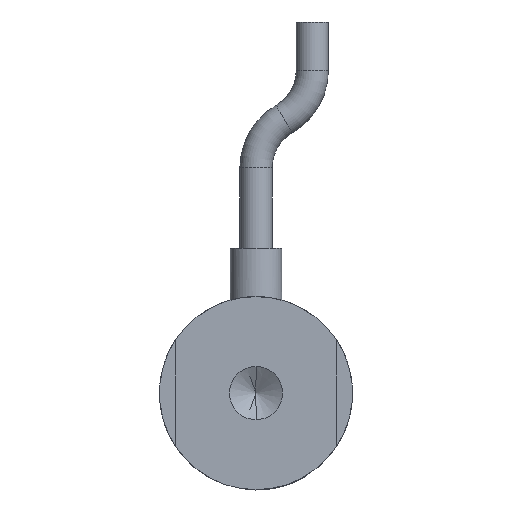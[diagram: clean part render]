
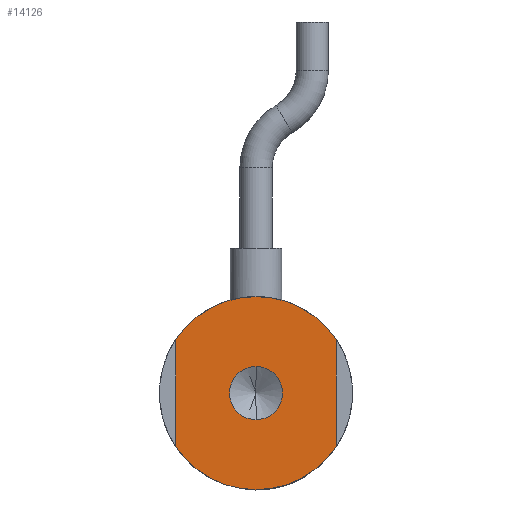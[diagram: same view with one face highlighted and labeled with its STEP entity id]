
A CAD part, front view. The second image highlights one B-rep face of the part: STEP entity #14126.
In plain terms, the highlighted planar face has unit normal (0, -1, 0).
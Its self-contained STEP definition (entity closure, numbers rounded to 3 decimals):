
#76 = CARTESIAN_POINT ( 'NONE',  ( 0., 0., -6. ) ) ;
#1276 = CIRCLE ( 'NONE', #23313, 6. ) ;
#1952 = DIRECTION ( 'NONE',  ( 0., 0., 1. ) ) ;
#2684 = DIRECTION ( 'NONE',  ( 0., -1., 0. ) ) ;
#2774 = VERTEX_POINT ( 'NONE', #29388 ) ;
#2792 = DIRECTION ( 'NONE',  ( 0., 1., 0. ) ) ;
#2826 = VECTOR ( 'NONE', #5853, 1000. ) ;
#3125 = AXIS2_PLACEMENT_3D ( 'NONE', #21870, #2684, #25080 ) ;
#3640 = ORIENTED_EDGE ( 'NONE', *, *, #22614, .F. ) ;
#5386 = VERTEX_POINT ( 'NONE', #76 ) ;
#5853 = DIRECTION ( 'NONE',  ( 0., 0., -1. ) ) ;
#5935 = DIRECTION ( 'NONE',  ( 0., 0., 1. ) ) ;
#6221 = EDGE_CURVE ( 'NONE', #11864, #17180, #19859, .T. ) ;
#7798 = CARTESIAN_POINT ( 'NONE',  ( 5., 0., -3.317 ) ) ;
#8244 = CARTESIAN_POINT ( 'NONE',  ( 0., 0., 0. ) ) ;
#8259 = CARTESIAN_POINT ( 'NONE',  ( 0., 0., 0. ) ) ;
#8446 = LINE ( 'NONE', #38360, #40118 ) ;
#11506 = DIRECTION ( 'NONE',  ( 0., 0., 1. ) ) ;
#11522 = DIRECTION ( 'NONE',  ( 0., 0., -1. ) ) ;
#11629 = FACE_BOUND ( 'NONE', #19776, .T. ) ;
#11720 = CARTESIAN_POINT ( 'NONE',  ( 0., 0., 1.65 ) ) ;
#11772 = VERTEX_POINT ( 'NONE', #32800 ) ;
#11864 = VERTEX_POINT ( 'NONE', #34269 ) ;
#12185 = ORIENTED_EDGE ( 'NONE', *, *, #6221, .F. ) ;
#12697 = CARTESIAN_POINT ( 'NONE',  ( 0., 0., 0. ) ) ;
#13468 = EDGE_CURVE ( 'NONE', #22080, #29192, #16139, .T. ) ;
#13867 = CARTESIAN_POINT ( 'NONE',  ( 0., 0., 6. ) ) ;
#14126 = ADVANCED_FACE ( 'NONE', ( #11629, #25050 ), #15818, .F. ) ;
#14800 = VERTEX_POINT ( 'NONE', #11720 ) ;
#15778 = ORIENTED_EDGE ( 'NONE', *, *, #33130, .F. ) ;
#15818 = PLANE ( 'NONE',  #17096 ) ;
#15910 = DIRECTION ( 'NONE',  ( 0., 0., 1. ) ) ;
#16139 = CIRCLE ( 'NONE', #27036, 6. ) ;
#16448 = CARTESIAN_POINT ( 'NONE',  ( 5., 0., 0. ) ) ;
#17096 = AXIS2_PLACEMENT_3D ( 'NONE', #19790, #35071, #1952 ) ;
#17180 = VERTEX_POINT ( 'NONE', #7798 ) ;
#17736 = CARTESIAN_POINT ( 'NONE',  ( 0., 0., 0. ) ) ;
#19377 = ORIENTED_EDGE ( 'NONE', *, *, #36521, .F. ) ;
#19776 = EDGE_LOOP ( 'NONE', ( #3640, #19377 ) ) ;
#19790 = CARTESIAN_POINT ( 'NONE',  ( 0., 0., 0. ) ) ;
#19859 = LINE ( 'NONE', #16448, #2826 ) ;
#20965 = DIRECTION ( 'NONE',  ( 0., 0., 1. ) ) ;
#21534 = AXIS2_PLACEMENT_3D ( 'NONE', #8244, #30708, #11506 ) ;
#21870 = CARTESIAN_POINT ( 'NONE',  ( 0., 0., 0. ) ) ;
#22080 = VERTEX_POINT ( 'NONE', #32505 ) ;
#22614 = EDGE_CURVE ( 'NONE', #2774, #14800, #26646, .T. ) ;
#22617 = AXIS2_PLACEMENT_3D ( 'NONE', #17736, #40219, #20965 ) ;
#23313 = AXIS2_PLACEMENT_3D ( 'NONE', #12697, #35156, #15910 ) ;
#24805 = EDGE_CURVE ( 'NONE', #29192, #11864, #1276, .T. ) ;
#25050 = FACE_OUTER_BOUND ( 'NONE', #30799, .T. ) ;
#25080 = DIRECTION ( 'NONE',  ( 0., 0., -1. ) ) ;
#25383 = EDGE_CURVE ( 'NONE', #5386, #11772, #32831, .T. ) ;
#25429 = AXIS2_PLACEMENT_3D ( 'NONE', #8259, #30726, #11522 ) ;
#25556 = CIRCLE ( 'NONE', #3125, 1.65 ) ;
#26604 = ORIENTED_EDGE ( 'NONE', *, *, #25383, .F. ) ;
#26646 = CIRCLE ( 'NONE', #25429, 1.65 ) ;
#27036 = AXIS2_PLACEMENT_3D ( 'NONE', #27711, #2792, #31678 ) ;
#27711 = CARTESIAN_POINT ( 'NONE',  ( 0., 0., 0. ) ) ;
#28327 = ORIENTED_EDGE ( 'NONE', *, *, #13468, .F. ) ;
#29192 = VERTEX_POINT ( 'NONE', #13867 ) ;
#29388 = CARTESIAN_POINT ( 'NONE',  ( 0., 0., -1.65 ) ) ;
#30708 = DIRECTION ( 'NONE',  ( 0., 1., 0. ) ) ;
#30726 = DIRECTION ( 'NONE',  ( 0., -1., 0. ) ) ;
#30799 = EDGE_LOOP ( 'NONE', ( #15778, #26604, #40359, #12185, #34336, #28327 ) ) ;
#31678 = DIRECTION ( 'NONE',  ( 0., 0., 1. ) ) ;
#32505 = CARTESIAN_POINT ( 'NONE',  ( -5., 0., 3.317 ) ) ;
#32800 = CARTESIAN_POINT ( 'NONE',  ( -5., 0., -3.317 ) ) ;
#32831 = CIRCLE ( 'NONE', #21534, 6. ) ;
#33130 = EDGE_CURVE ( 'NONE', #11772, #22080, #8446, .T. ) ;
#34269 = CARTESIAN_POINT ( 'NONE',  ( 5., 0., 3.317 ) ) ;
#34336 = ORIENTED_EDGE ( 'NONE', *, *, #24805, .F. ) ;
#35071 = DIRECTION ( 'NONE',  ( 0., 1., 0. ) ) ;
#35156 = DIRECTION ( 'NONE',  ( 0., 1., 0. ) ) ;
#36521 = EDGE_CURVE ( 'NONE', #14800, #2774, #25556, .T. ) ;
#38360 = CARTESIAN_POINT ( 'NONE',  ( -5., 0., 0. ) ) ;
#38881 = CIRCLE ( 'NONE', #22617, 6. ) ;
#40118 = VECTOR ( 'NONE', #5935, 1000. ) ;
#40219 = DIRECTION ( 'NONE',  ( 0., 1., 0. ) ) ;
#40359 = ORIENTED_EDGE ( 'NONE', *, *, #41402, .F. ) ;
#41402 = EDGE_CURVE ( 'NONE', #17180, #5386, #38881, .T. ) ;
